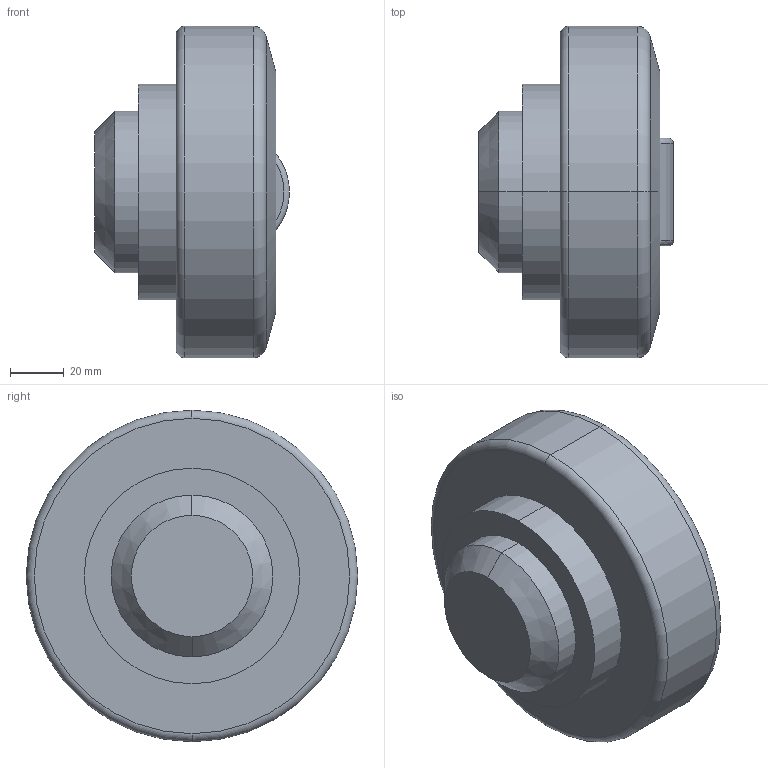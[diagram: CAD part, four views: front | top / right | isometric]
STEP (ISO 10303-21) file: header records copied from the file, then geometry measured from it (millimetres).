
FILE_DESCRIPTION (( 'STEP AP203' ), '1' );
FILE_NAME ('3D40062.STEP', '2002-11-20T10:02:00', ( 'Francesc' ), ( 'propia' ), 'SwSTEP 2.0', 'SolidWorks 2001039', '' );
FILE_SCHEMA (( 'CONFIG_CONTROL_DESIGN' ));
Length unit declared in the file: millimetre
Products named in the file (1): 2
Bounding box: 72.3 x 123 x 123 mm (x, y, z)
Volume: 539101.1 mm3; surface area: 41446.3 mm2
Topology: 1 solids, 1 shells, 23 faces, 46 edges, 28 vertices
Faces by surface type: cylinder 7, plane 6, torus 6, cone 4
Entity records: 733 total; most frequent: CARTESIAN_POINT 158, DIRECTION 118, ORIENTED_EDGE 92, AXIS2_PLACEMENT_3D 52, EDGE_CURVE 46, VERTEX_POINT 28, CIRCLE 28, EDGE_LOOP 26
